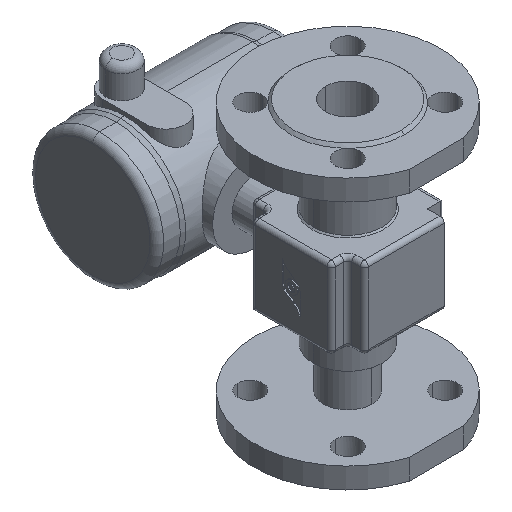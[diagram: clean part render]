
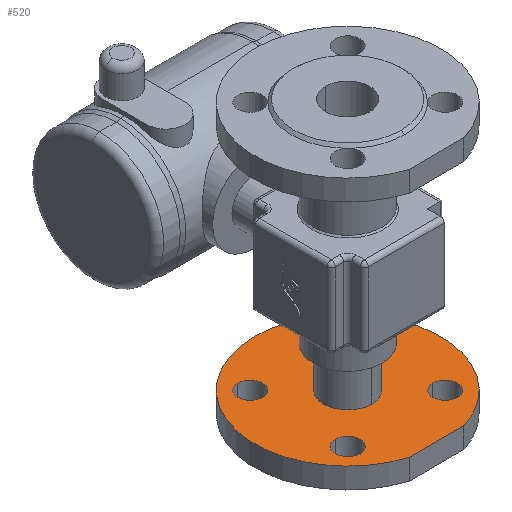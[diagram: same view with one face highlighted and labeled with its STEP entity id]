
A CAD part, isometric view. The second image highlights one B-rep face of the part: STEP entity #520.
In plain terms, the highlighted planar face has unit normal (0, 0, 1).
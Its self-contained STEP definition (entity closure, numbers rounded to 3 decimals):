
#92 = EDGE_CURVE ( 'NONE', #681, #1837, #4498, .T. ) ;
#172 = CARTESIAN_POINT ( 'NONE',  ( 35.355, -44.355, -168. ) ) ;
#177 = ORIENTED_EDGE ( 'NONE', *, *, #1172, .T. ) ;
#354 = CIRCLE ( 'NONE', #5911, 9. ) ;
#371 = AXIS2_PLACEMENT_3D ( 'NONE', #657, #3873, #1132 ) ;
#388 = CARTESIAN_POINT ( 'NONE',  ( -35.355, -35.355, -168. ) ) ;
#393 = CARTESIAN_POINT ( 'NONE',  ( 35.355, 35.355, -168. ) ) ;
#520 = ADVANCED_FACE ( 'NONE', ( #4708, #1036, #5811, #4568, #3349, #2136 ), #3981, .T. ) ;
#558 = VERTEX_POINT ( 'NONE', #5191 ) ;
#639 = CARTESIAN_POINT ( 'NONE',  ( -35.355, 26.355, -168. ) ) ;
#657 = CARTESIAN_POINT ( 'NONE',  ( 35.355, 35.355, -168. ) ) ;
#681 = VERTEX_POINT ( 'NONE', #639 ) ;
#722 = AXIS2_PLACEMENT_3D ( 'NONE', #388, #3628, #860 ) ;
#763 = CARTESIAN_POINT ( 'NONE',  ( 35.355, -35.355, -168. ) ) ;
#795 = AXIS2_PLACEMENT_3D ( 'NONE', #2763, #5516, #2714 ) ;
#816 = CARTESIAN_POINT ( 'NONE',  ( 0., 67.5, -168. ) ) ;
#860 = DIRECTION ( 'NONE',  ( 0., -1., 0. ) ) ;
#868 = DIRECTION ( 'NONE',  ( 0., -1., 0. ) ) ;
#907 = CARTESIAN_POINT ( 'NONE',  ( -35.355, 44.355, -168. ) ) ;
#979 = CARTESIAN_POINT ( 'NONE',  ( 0., -17.5, -168. ) ) ;
#985 = ORIENTED_EDGE ( 'NONE', *, *, #1756, .F. ) ;
#1036 = FACE_BOUND ( 'NONE', #1559, .T. ) ;
#1132 = DIRECTION ( 'NONE',  ( 0., -1., 0. ) ) ;
#1157 = VERTEX_POINT ( 'NONE', #5194 ) ;
#1172 = EDGE_CURVE ( 'NONE', #558, #4167, #3867, .T. ) ;
#1177 = CIRCLE ( 'NONE', #722, 9. ) ;
#1264 = CIRCLE ( 'NONE', #2120, 9. ) ;
#1304 = ORIENTED_EDGE ( 'NONE', *, *, #3918, .T. ) ;
#1341 = AXIS2_PLACEMENT_3D ( 'NONE', #763, #4504, #3664 ) ;
#1409 = EDGE_LOOP ( 'NONE', ( #3466, #2095 ) ) ;
#1458 = DIRECTION ( 'NONE',  ( 0., -1., 0. ) ) ;
#1559 = EDGE_LOOP ( 'NONE', ( #3597, #5903 ) ) ;
#1566 = EDGE_LOOP ( 'NONE', ( #3163, #2230, #985 ) ) ;
#1587 = DIRECTION ( 'NONE',  ( 0., 0., 1. ) ) ;
#1595 = CARTESIAN_POINT ( 'NONE',  ( 35.355, 44.355, -168. ) ) ;
#1603 = VECTOR ( 'NONE', #5387, 1000. ) ;
#1639 = DIRECTION ( 'NONE',  ( 0., 0., -1. ) ) ;
#1701 = AXIS2_PLACEMENT_3D ( 'NONE', #3887, #1894, #1748 ) ;
#1748 = DIRECTION ( 'NONE',  ( 0., 1., 0. ) ) ;
#1756 = EDGE_CURVE ( 'NONE', #2020, #1826, #5523, .T. ) ;
#1798 = CIRCLE ( 'NONE', #3763, 17.5 ) ;
#1825 = CARTESIAN_POINT ( 'NONE',  ( -35.355, 35.355, -168. ) ) ;
#1826 = VERTEX_POINT ( 'NONE', #816 ) ;
#1837 = VERTEX_POINT ( 'NONE', #907 ) ;
#1846 = CARTESIAN_POINT ( 'NONE',  ( 19.9, -64.5, -168. ) ) ;
#1894 = DIRECTION ( 'NONE',  ( 0., 0., -1. ) ) ;
#1926 = EDGE_CURVE ( 'NONE', #1826, #4212, #5754, .T. ) ;
#1933 = VERTEX_POINT ( 'NONE', #1595 ) ;
#2020 = VERTEX_POINT ( 'NONE', #5148 ) ;
#2040 = CIRCLE ( 'NONE', #5983, 9. ) ;
#2054 = CIRCLE ( 'NONE', #4257, 9. ) ;
#2062 = AXIS2_PLACEMENT_3D ( 'NONE', #1825, #5076, #4319 ) ;
#2079 = DIRECTION ( 'NONE',  ( 0., 1., 0. ) ) ;
#2095 = ORIENTED_EDGE ( 'NONE', *, *, #2179, .T. ) ;
#2105 = CARTESIAN_POINT ( 'NONE',  ( 0., 17.5, -168. ) ) ;
#2120 = AXIS2_PLACEMENT_3D ( 'NONE', #2671, #5894, #3138 ) ;
#2136 = FACE_BOUND ( 'NONE', #1409, .T. ) ;
#2179 = EDGE_CURVE ( 'NONE', #5058, #5502, #1798, .T. ) ;
#2181 = CARTESIAN_POINT ( 'NONE',  ( 19.9, -64.5, -168. ) ) ;
#2230 = ORIENTED_EDGE ( 'NONE', *, *, #1926, .F. ) ;
#2516 = ORIENTED_EDGE ( 'NONE', *, *, #3152, .T. ) ;
#2523 = CARTESIAN_POINT ( 'NONE',  ( 0., 0., -168. ) ) ;
#2524 = ORIENTED_EDGE ( 'NONE', *, *, #4904, .T. ) ;
#2564 = DIRECTION ( 'NONE',  ( 0., 0., -1. ) ) ;
#2581 = DIRECTION ( 'NONE',  ( 0., 1., 0. ) ) ;
#2618 = CARTESIAN_POINT ( 'NONE',  ( 35.355, 26.355, -168. ) ) ;
#2633 = EDGE_CURVE ( 'NONE', #5502, #5058, #5605, .T. ) ;
#2671 = CARTESIAN_POINT ( 'NONE',  ( -35.355, -35.355, -168. ) ) ;
#2714 = DIRECTION ( 'NONE',  ( 0., 1., 0. ) ) ;
#2743 = EDGE_LOOP ( 'NONE', ( #2524, #3958 ) ) ;
#2763 = CARTESIAN_POINT ( 'NONE',  ( 0., 0., -168. ) ) ;
#2793 = DIRECTION ( 'NONE',  ( 0., 0., -1. ) ) ;
#2946 = AXIS2_PLACEMENT_3D ( 'NONE', #4202, #1587, #1458 ) ;
#2963 = DIRECTION ( 'NONE',  ( 0., -1., 0. ) ) ;
#3006 = DIRECTION ( 'NONE',  ( 0., 0., -1. ) ) ;
#3031 = CARTESIAN_POINT ( 'NONE',  ( 35.355, -35.355, -168. ) ) ;
#3138 = DIRECTION ( 'NONE',  ( 0., -1., 0. ) ) ;
#3152 = EDGE_CURVE ( 'NONE', #4167, #558, #354, .T. ) ;
#3163 = ORIENTED_EDGE ( 'NONE', *, *, #5566, .T. ) ;
#3297 = CARTESIAN_POINT ( 'NONE',  ( -35.355, -44.355, -168. ) ) ;
#3349 = FACE_BOUND ( 'NONE', #2743, .T. ) ;
#3466 = ORIENTED_EDGE ( 'NONE', *, *, #2633, .T. ) ;
#3589 = AXIS2_PLACEMENT_3D ( 'NONE', #2523, #1639, #2079 ) ;
#3597 = ORIENTED_EDGE ( 'NONE', *, *, #4858, .T. ) ;
#3628 = DIRECTION ( 'NONE',  ( 0., 0., -1. ) ) ;
#3635 = DIRECTION ( 'NONE',  ( 0., 0., -1. ) ) ;
#3664 = DIRECTION ( 'NONE',  ( 0., -1., 0. ) ) ;
#3676 = EDGE_LOOP ( 'NONE', ( #177, #2516 ) ) ;
#3763 = AXIS2_PLACEMENT_3D ( 'NONE', #5708, #2564, #2581 ) ;
#3867 = CIRCLE ( 'NONE', #1341, 9. ) ;
#3873 = DIRECTION ( 'NONE',  ( 0., 0., -1. ) ) ;
#3887 = CARTESIAN_POINT ( 'NONE',  ( 0., 0., -168. ) ) ;
#3918 = EDGE_CURVE ( 'NONE', #1837, #681, #2040, .T. ) ;
#3958 = ORIENTED_EDGE ( 'NONE', *, *, #4445, .T. ) ;
#3981 = PLANE ( 'NONE',  #2946 ) ;
#4055 = CIRCLE ( 'NONE', #371, 9. ) ;
#4076 = EDGE_LOOP ( 'NONE', ( #1304, #4956 ) ) ;
#4167 = VERTEX_POINT ( 'NONE', #172 ) ;
#4202 = CARTESIAN_POINT ( 'NONE',  ( 0., 67.5, -168. ) ) ;
#4212 = VERTEX_POINT ( 'NONE', #1846 ) ;
#4257 = AXIS2_PLACEMENT_3D ( 'NONE', #393, #3635, #868 ) ;
#4319 = DIRECTION ( 'NONE',  ( 0., -1., 0. ) ) ;
#4445 = EDGE_CURVE ( 'NONE', #5303, #1933, #4055, .T. ) ;
#4498 = CIRCLE ( 'NONE', #2062, 9. ) ;
#4504 = DIRECTION ( 'NONE',  ( 0., 0., -1. ) ) ;
#4568 = FACE_BOUND ( 'NONE', #4076, .T. ) ;
#4708 = FACE_OUTER_BOUND ( 'NONE', #1566, .T. ) ;
#4858 = EDGE_CURVE ( 'NONE', #1157, #5082, #1264, .T. ) ;
#4904 = EDGE_CURVE ( 'NONE', #1933, #5303, #2054, .T. ) ;
#4956 = ORIENTED_EDGE ( 'NONE', *, *, #92, .T. ) ;
#5058 = VERTEX_POINT ( 'NONE', #979 ) ;
#5076 = DIRECTION ( 'NONE',  ( 0., 0., -1. ) ) ;
#5082 = VERTEX_POINT ( 'NONE', #3297 ) ;
#5109 = LINE ( 'NONE', #2181, #1603 ) ;
#5148 = CARTESIAN_POINT ( 'NONE',  ( -19.9, -64.5, -168. ) ) ;
#5191 = CARTESIAN_POINT ( 'NONE',  ( 35.355, -26.355, -168. ) ) ;
#5194 = CARTESIAN_POINT ( 'NONE',  ( -35.355, -26.355, -168. ) ) ;
#5303 = VERTEX_POINT ( 'NONE', #2618 ) ;
#5387 = DIRECTION ( 'NONE',  ( 1., 0., 0. ) ) ;
#5502 = VERTEX_POINT ( 'NONE', #2105 ) ;
#5516 = DIRECTION ( 'NONE',  ( 0., 0., -1. ) ) ;
#5523 = CIRCLE ( 'NONE', #795, 67.5 ) ;
#5547 = CARTESIAN_POINT ( 'NONE',  ( -35.355, 35.355, -168. ) ) ;
#5566 = EDGE_CURVE ( 'NONE', #2020, #4212, #5109, .T. ) ;
#5605 = CIRCLE ( 'NONE', #1701, 17.5 ) ;
#5634 = EDGE_CURVE ( 'NONE', #5082, #1157, #1177, .T. ) ;
#5708 = CARTESIAN_POINT ( 'NONE',  ( 0., 0., -168. ) ) ;
#5754 = CIRCLE ( 'NONE', #3589, 67.5 ) ;
#5811 = FACE_BOUND ( 'NONE', #3676, .T. ) ;
#5894 = DIRECTION ( 'NONE',  ( 0., 0., -1. ) ) ;
#5903 = ORIENTED_EDGE ( 'NONE', *, *, #5634, .T. ) ;
#5911 = AXIS2_PLACEMENT_3D ( 'NONE', #3031, #3006, #2963 ) ;
#5983 = AXIS2_PLACEMENT_3D ( 'NONE', #5547, #2793, #6023 ) ;
#6023 = DIRECTION ( 'NONE',  ( 0., -1., 0. ) ) ;
